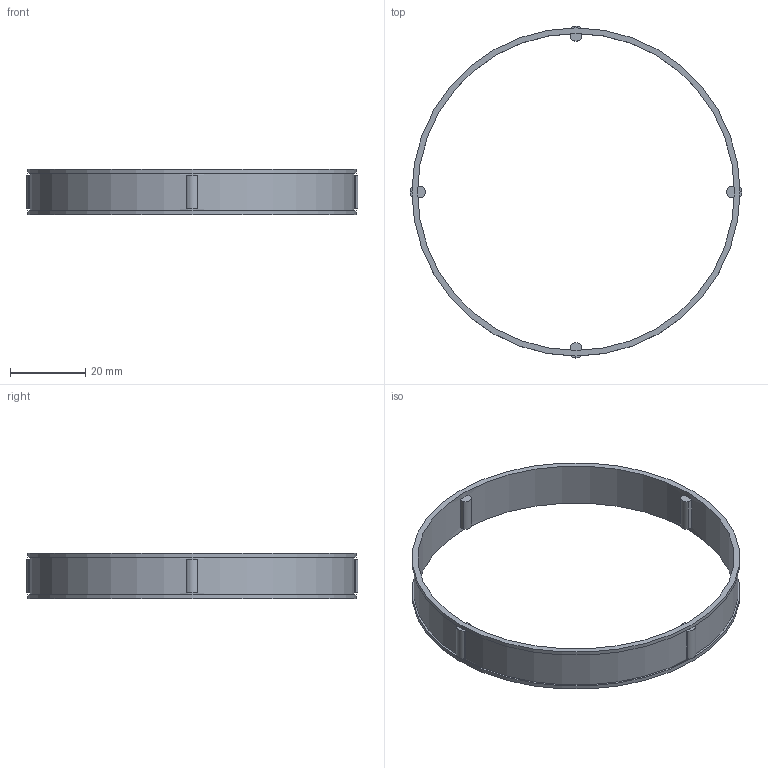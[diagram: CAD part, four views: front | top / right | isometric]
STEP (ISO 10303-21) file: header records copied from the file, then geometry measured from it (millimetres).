
FILE_DESCRIPTION(/* description */ (''),/* implementation_level */ '2;1');
FILE_NAME(/* name */ '300514 FE 488 Z.stp',/* time_stamp */ '2016-11-03T10:43:03+01:00',/* author */ (''),/* organization */ (''),/* preprocessor_version */ 'ST-DEVELOPER v15',/* originating_system */ 'SIEMENS PLM Software NX 8.5',/* authorisation */ '');
FILE_SCHEMA (('CONFIG_CONTROL_DESIGN'));
Length unit declared in the file: millimetre
Products named in the file (1): ATE0000080_01
Bounding box: 88 x 88 x 12 mm (x, y, z)
Volume: 3751.8 mm3; surface area: 7703.2 mm2
Topology: 1 solids, 1 shells, 48 faces, 114 edges, 76 vertices
Faces by surface type: plane 36, cylinder 12
Full cylindrical faces by diameter (mm): 84 x1, 86 x1, 87 x2
Entity records: 1420 total; most frequent: DIRECTION 242, CARTESIAN_POINT 225, ORIENTED_EDGE 208, EDGE_CURVE 104, AXIS2_PLACEMENT_3D 89, VERTEX_POINT 72, LINE 64, VECTOR 64
